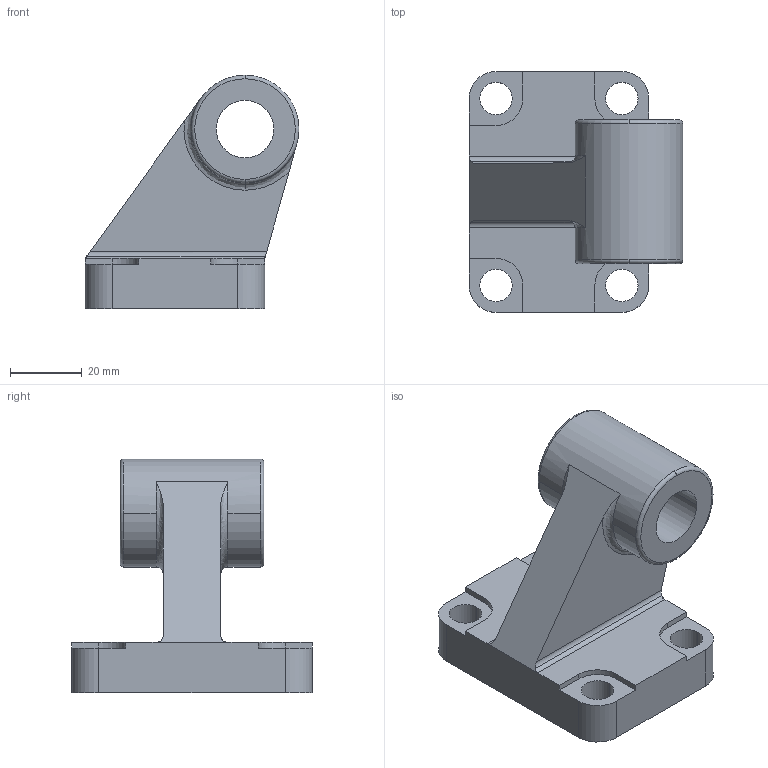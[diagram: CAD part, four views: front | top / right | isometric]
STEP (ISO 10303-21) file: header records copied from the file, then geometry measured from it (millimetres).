
FILE_DESCRIPTION((''),'2;1');
FILE_NAME('COIS063.stp','2008-02-17T23:35:03',('BP'),('AZ PNEUMATICA S.r.l.'),'Mechanical Desktop 2006','Mechanical Desktop 2006','Via Marco Biagi 6, 20020 Misinto (MI) Italia, azpneu@tin.it');
FILE_SCHEMA(('CONFIG_CONTROL_DESIGN'));
Length unit declared in the file: millimetre
Products named in the file (2): USKA UGAONA; PART1
Assembly tree (1 placements, depth 2):
  USKA UGAONA
    PART1
Bounding box: 59.5 x 67 x 65 mm (x, y, z)
Volume: 80863 mm3; surface area: 19263.4 mm2
Topology: 1 solids, 1 shells, 57 faces, 163 edges, 108 vertices
Faces by surface type: plane 25, cylinder 24, bspline 4, torus 4
Entity records: 2360 total; most frequent: CARTESIAN_POINT 690, DIRECTION 343, ORIENTED_EDGE 326, EDGE_CURVE 163, AXIS2_PLACEMENT_3D 129, VERTEX_POINT 108, VECTOR 85, LINE 85
